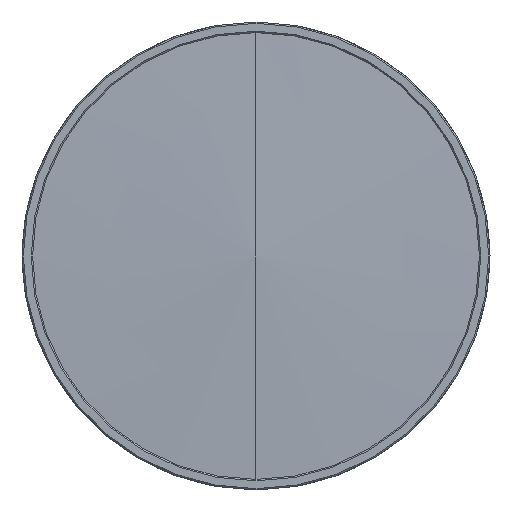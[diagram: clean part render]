
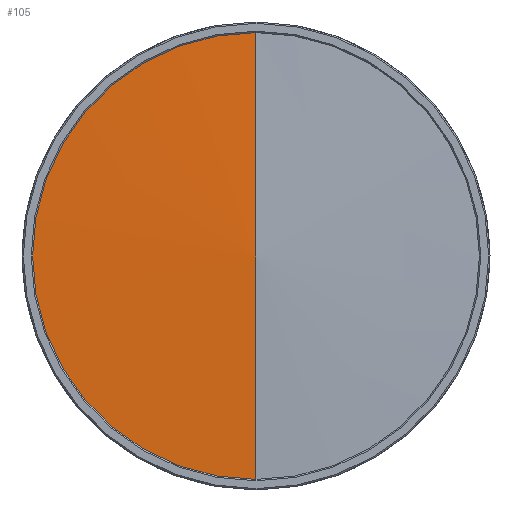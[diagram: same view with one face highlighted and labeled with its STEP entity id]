
A CAD part, left-side view. The second image highlights one B-rep face of the part: STEP entity #105.
In plain terms, the highlighted conical face has half-angle 88.006 degrees and reference radius 28721.1 mm.
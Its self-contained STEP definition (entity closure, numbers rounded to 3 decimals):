
#74 = EDGE_CURVE ( 'NONE', #591, #2442, #10759, .T. ) ;
#105 = ADVANCED_FACE ( 'NONE', ( #3921 ), #9678, .T. ) ;
#591 = VERTEX_POINT ( 'NONE', #770 ) ;
#770 = CARTESIAN_POINT ( 'NONE',  ( 1.729, 0., -49.65 ) ) ;
#1487 = AXIS2_PLACEMENT_3D ( 'NONE', #10993, #8287, #5792 ) ;
#1601 = DIRECTION ( 'NONE',  ( 1., 0., 0. ) ) ;
#1686 = DIRECTION ( 'NONE',  ( 0.035, 0., 0.999 ) ) ;
#2442 = VERTEX_POINT ( 'NONE', #10186 ) ;
#2877 = ORIENTED_EDGE ( 'NONE', *, *, #6286, .F. ) ;
#3142 = VECTOR ( 'NONE', #1686, 1000. ) ;
#3921 = FACE_OUTER_BOUND ( 'NONE', #6300, .T. ) ;
#4510 = LINE ( 'NONE', #5864, #9477 ) ;
#4920 = CARTESIAN_POINT ( 'NONE',  ( 1000., 0., 0. ) ) ;
#5382 = CARTESIAN_POINT ( 'NONE',  ( 0., 0., 0. ) ) ;
#5584 = CARTESIAN_POINT ( 'NONE',  ( 0., 0., 0. ) ) ;
#5792 = DIRECTION ( 'NONE',  ( 0., 0., 1. ) ) ;
#5864 = CARTESIAN_POINT ( 'NONE',  ( 0., 0., 0. ) ) ;
#6286 = EDGE_CURVE ( 'NONE', #11036, #591, #4510, .T. ) ;
#6300 = EDGE_LOOP ( 'NONE', ( #2877, #7568, #8146 ) ) ;
#7142 = LINE ( 'NONE', #5382, #3142 ) ;
#7568 = ORIENTED_EDGE ( 'NONE', *, *, #7620, .T. ) ;
#7620 = EDGE_CURVE ( 'NONE', #11036, #2442, #7142, .T. ) ;
#8146 = ORIENTED_EDGE ( 'NONE', *, *, #74, .F. ) ;
#8287 = DIRECTION ( 'NONE',  ( 1., 0., 0. ) ) ;
#8401 = DIRECTION ( 'NONE',  ( 0., 0., -1. ) ) ;
#8461 = DIRECTION ( 'NONE',  ( 0.035, 0., -0.999 ) ) ;
#9477 = VECTOR ( 'NONE', #8461, 1000. ) ;
#9594 = AXIS2_PLACEMENT_3D ( 'NONE', #4920, #1601, #8401 ) ;
#9678 = CONICAL_SURFACE ( 'NONE', #9594, 28721.127, 1.536 ) ;
#10186 = CARTESIAN_POINT ( 'NONE',  ( 1.729, 0., 49.65 ) ) ;
#10759 = CIRCLE ( 'NONE', #1487, 49.65 ) ;
#10993 = CARTESIAN_POINT ( 'NONE',  ( 1.729, 0., 0. ) ) ;
#11036 = VERTEX_POINT ( 'NONE', #5584 ) ;
